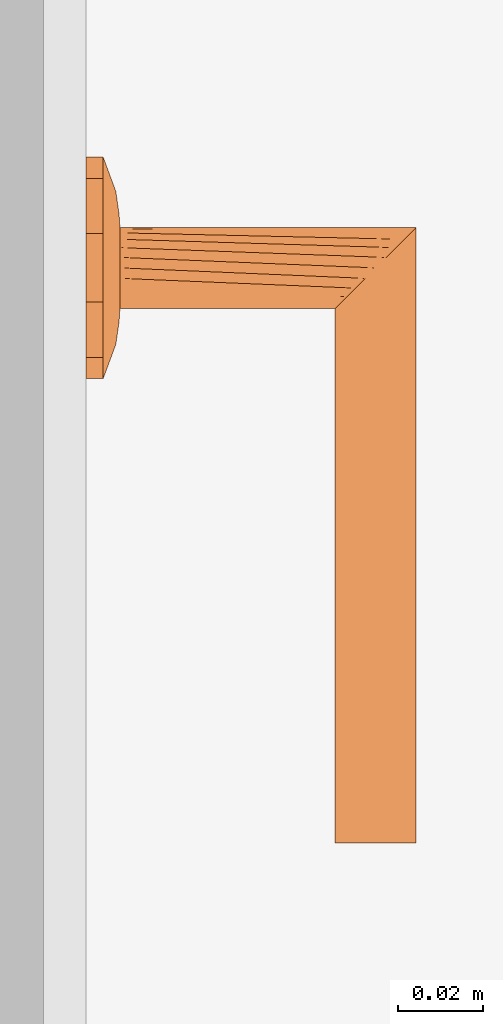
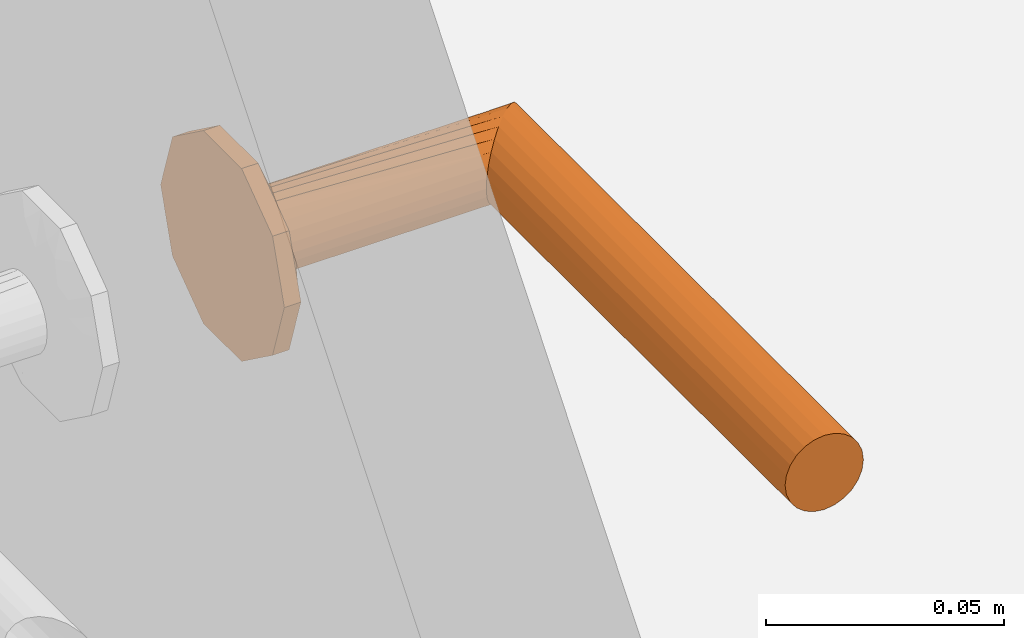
# One storey, part 118 of 125: 1 proxy.
"""IFC2X3 building model written with IfcOpenShell, lengths in millimetres."""

from ifc_helpers import new_model, entity, si_unit, converted_unit, direction, frame, origin, place, context, subcontext, project, spatial, faceted_brep, source, transform, mapped, material, type_object, type_shapes, element, save


model = new_model("IFC2X3")

# Units and contexts
model_context = context("Model", 3, precision=0.01, world=origin(), true_north=direction((6.123233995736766e-17, 1.0)))
plan_context = context("Plan", 3, precision=0.01, world=origin(), true_north=direction((6.123233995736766e-17, 1.0)))
body_context = subcontext(model_context, "Body", "Model", "MODEL_VIEW")
ifc_project = project(units=[si_unit("LENGTHUNIT", "METRE", prefix="MILLI"), converted_unit("PLANEANGLEUNIT", "DEGREE", entity("IfcPlaneAngleMeasure", 0.017453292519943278), si_unit("PLANEANGLEUNIT", "RADIAN"), dimensions=[0, 0, 0, 0, 0, 0, 0]), si_unit("AREAUNIT", "SQUARE_METRE")], contexts=[model_context, plan_context])

# Site, building, storey, space
site_placement = place(None, origin())
site = spatial("IfcSite", under=ifc_project, at=site_placement, Name="Default", CompositionType="ELEMENT")
building_placement = place(site_placement, origin())
building = spatial("IfcBuilding", under=site, at=building_placement, CompositionType="ELEMENT")
storey_placement = place(building_placement, frame((0.0, 0.0, 3125.0)))
storey = spatial("IfcBuildingStorey", under=building, at=storey_placement, Name="2K", CompositionType="ELEMENT", Elevation=3125.0)
space_placement = place(storey_placement, origin())
space = spatial("IfcSpace", under=storey, at=space_placement, Name="2-4.4", CompositionType="ELEMENT", InteriorOrExteriorSpace="INTERNAL")

# Proxy
ifc_material = material(Name="<Unnamed>")
building_element_proxy_type = type_object("IfcBuildingElementProxyType", Name="Door-handle_Lever_ABLOY_INOXI_3-19ss-002_RT:Default", PredefinedType="NOTDEFINED", material=ifc_material)
shared_shape = source(origin(), body_context, "Body", "Brep", [
    faceted_brep([(0.0, 0.0, 0.0), (21.034441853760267, -15.282416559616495, 0.0), (14.534441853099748, -20.00494299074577, 0.0), (8.034441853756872, -24.72746942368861, 0.0), (0.0, -24.72746942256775, 0.0), (23.51722092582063, -7.6412082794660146, 0.0), (26.0, 0.0, 0.0), (-8.034441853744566, -24.727469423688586, 0.0), (-14.534441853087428, -20.00494299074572, 0.0), (-21.03444185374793, -15.282416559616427, 0.0), (-23.517220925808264, -7.641208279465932, 0.0), (-26.0, 0.0, 0.0), (-23.517220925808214, 7.641208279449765, 0.0), (23.517220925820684, 7.641208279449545, 0.0), (21.034441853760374, 15.282416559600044, 0.0), (14.53444185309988, 20.00494299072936, 0.0), (8.034441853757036, 24.72746942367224, 0.0), (-21.034441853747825, 15.282416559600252, 0.0), (-14.53444185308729, 20.004942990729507, 0.0), (-8.0344418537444, 24.72746942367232, 0.0), (0.0, 24.72746942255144, 0.0), (0.0, 0.0, 8.0), (4.7500000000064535, -8.227241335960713, 8.0), (5.937500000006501, -6.170431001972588, 8.0), (7.125000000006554, -4.113620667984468, 8.0), (8.312500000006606, -2.0568103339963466, 8.0), (9.500000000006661, 0.0, 8.0), (8.312500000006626, 2.056810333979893, 8.0), (2.3750000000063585, -8.227241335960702, 8.0), (0.0, -8.227241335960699, 8.0), (-2.3749999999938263, -8.227241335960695, 8.0), (-4.749999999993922, -8.227241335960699, 8.0), (-5.937499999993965, -6.170431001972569, 8.0), (-7.124999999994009, -4.113620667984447, 8.0), (-8.312499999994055, -2.056810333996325, 8.0), (-9.499999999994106, 0.0, 8.0), (7.125000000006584, 4.113620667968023, 8.0), (5.937500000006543, 6.170431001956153, 8.0), (4.750000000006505, 8.227241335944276, 8.0), (2.3750000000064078, 8.22724133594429, 8.0), (-8.31249999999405, 2.0568103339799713, 8.0), (-7.12499999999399, 4.113620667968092, 8.0), (-5.9374999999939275, 6.170431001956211, 8.0), (-4.74999999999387, 8.227241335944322, 8.0), (0.0, 8.227241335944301, 8.0), (-2.374999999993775, 8.227241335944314, 8.0), (-22.488765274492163, -10.806469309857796, 4.030771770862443), (-16.663919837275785, -7.932665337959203, 6.877259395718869), (-20.643071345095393, -6.292822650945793, 5.929480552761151), (-12.50457926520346, -5.179566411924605, 7.774932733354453), (-16.764060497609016, -3.820257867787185, 7.1747985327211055), (-9.071726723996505, -10.311606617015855, 7.7520782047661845), (-11.963426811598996, -8.625290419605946, 7.618343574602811), (-11.979136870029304, -13.678312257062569, 6.945778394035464), (5.7585542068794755, -20.96753300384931, 5.871476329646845), (0.0, -24.72746942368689, 4.030771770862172), (8.03444185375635, -24.727469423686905, 4.030771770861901), (16.66391982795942, -7.932665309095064, 6.877259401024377), (22.488765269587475, -10.806469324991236, 4.03077177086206), (20.64307133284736, -6.29282258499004, 5.929480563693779), (14.534441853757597, -20.004942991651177, 4.030771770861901), (9.499431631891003, -18.64368355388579, 6.154325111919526), (-15.783149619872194, -11.991003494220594, 6.50080018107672), (-21.034441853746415, -15.282416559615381, 4.030771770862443), (-14.53444185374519, -20.00494299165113, 4.030771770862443), (-23.012042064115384, 0.0, 5.135401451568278), (-23.943088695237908, -6.330522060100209, 4.030771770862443), (11.96342678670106, -8.62529049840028, 7.618343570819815), (12.504579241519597, -5.179566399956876, 7.774932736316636), (16.764060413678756, -3.8202578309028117, 7.17479855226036), (15.783149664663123, -11.991003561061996, 6.50080015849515), (17.985351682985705, 0.0, 6.993737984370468), (23.012042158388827, 0.0, 5.135401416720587), (8.661516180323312, -10.478936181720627, 7.768126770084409), (-8.03444185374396, -24.727469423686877, 4.030771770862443), (-3.3573143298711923, -21.197247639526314, 5.971427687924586), (-9.941915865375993, -17.061976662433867, 6.522757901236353), (-5.973257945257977, -16.430139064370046, 7.110979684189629), (-7.711266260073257, -12.760344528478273, 7.594456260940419), (11.979136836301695, -13.678312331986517, 6.945778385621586), (7.511307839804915, -13.358932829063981, 7.529187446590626), (5.953298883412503, -16.50608604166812, 7.096344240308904), (-1.5654593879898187, -15.307443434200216, 7.519134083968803), (-7.784980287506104, -20.476295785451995, 5.812837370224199), (2.8135289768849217, -17.76392260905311, 6.993737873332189), (-17.98535168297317, 0.0, 6.993737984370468), (-26.0, 0.0, 4.030771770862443), (-23.51722092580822, -7.641208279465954, 4.030771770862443), (23.943088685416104, -6.33052209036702, 4.030771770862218), (24.308823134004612, -5.204907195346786, 4.030771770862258), (26.0, 0.0, 4.030771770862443), (21.03444185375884, -15.282416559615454, 4.030771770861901), (22.617646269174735, -10.40981439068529, 4.030771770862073), (22.488765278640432, 10.806469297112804, 4.030771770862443), (16.66391984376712, 7.932665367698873, 6.877259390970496), (20.643071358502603, 6.292822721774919, 5.929480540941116), (12.504579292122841, 5.179566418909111, 7.774932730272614), (16.764060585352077, 3.8202579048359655, 7.174798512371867), (9.07172672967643, 10.31160659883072, 7.752078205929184), (11.963426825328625, 8.62529034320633, 7.618343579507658), (11.979136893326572, 13.67831220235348, 6.9457784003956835), (-5.758554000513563, 20.96753314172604, 5.8714763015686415), (0.0, 24.72746942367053, 4.030771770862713), (-8.03444185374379, 24.72746942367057, 4.030771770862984), (-16.663919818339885, 7.932665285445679, 6.877259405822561), (-22.48876526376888, 10.806469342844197, 4.030771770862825), (-20.643071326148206, 6.2928225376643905, 5.929480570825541), (-14.534441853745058, 20.004942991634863, 4.030771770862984), (-9.499431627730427, 18.643683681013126, 6.154325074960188), (15.783149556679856, 11.991003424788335, 6.5008002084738), (21.03444185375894, 15.282416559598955, 4.030771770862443), (14.534441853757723, 20.004942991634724, 4.030771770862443), (23.943088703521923, 6.330522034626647, 4.030771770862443), (-11.96342675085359, 8.625290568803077, 7.618343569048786), (-12.504579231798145, 5.179566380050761, 7.77493273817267), (-16.764060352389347, 3.820257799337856, 7.174798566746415), (-15.78314967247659, 11.991003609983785, 6.500800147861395), (-8.661516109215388, 10.478936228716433, 7.768126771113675), (8.034441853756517, 24.727469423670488, 4.030771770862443), (3.3573144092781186, 21.197247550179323, 5.971427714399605), (9.941915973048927, 17.061976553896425, 6.522757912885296), (5.9732581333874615, 16.430139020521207, 7.110979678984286), (7.711266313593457, 12.760344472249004, 7.5944562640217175), (-11.979136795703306, 13.678312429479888, 6.945778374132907), (-7.511307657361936, 13.358932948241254, 7.5291874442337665), (-5.9532988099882, 16.50608628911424, 7.096344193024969), (1.5654596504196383, 15.3074431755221, 7.519134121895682), (7.784980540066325, 20.476295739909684, 5.812837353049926), (-2.81352881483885, 17.76392263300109, 6.993737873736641), (23.51722092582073, 7.6412082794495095, 4.030771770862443), (-23.94308867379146, 6.330522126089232, 4.030771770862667), (-24.308823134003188, 5.20490719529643, 4.030771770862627), (-21.034441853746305, 15.282416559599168, 4.030771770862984), (-22.617646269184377, 10.409814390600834, 4.0307717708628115)], [[[0, 1, 2]], [[0, 2, 3]], [[0, 3, 4]], [[0, 5, 1]], [[0, 6, 5]], [[0, 4, 7]], [[0, 7, 8]], [[0, 8, 9]], [[0, 9, 10]], [[0, 10, 11]], [[0, 11, 12]], [[0, 13, 6]], [[0, 14, 13]], [[0, 15, 14]], [[0, 16, 15]], [[0, 12, 17]], [[0, 17, 18]], [[0, 18, 19]], [[0, 19, 20]], [[0, 20, 16]], [[21, 22, 23]], [[21, 23, 24]], [[21, 24, 25]], [[21, 25, 26]], [[21, 26, 27]], [[21, 28, 22]], [[21, 29, 28]], [[21, 30, 29]], [[21, 31, 30]], [[21, 32, 31]], [[21, 33, 32]], [[21, 34, 33]], [[21, 35, 34]], [[21, 27, 36]], [[21, 36, 37]], [[21, 37, 38]], [[21, 38, 39]], [[21, 40, 35]], [[21, 41, 40]], [[21, 42, 41]], [[21, 43, 42]], [[21, 39, 44]], [[21, 44, 45]], [[21, 45, 43]], [[46, 47, 48]], [[47, 49, 50]], [[49, 33, 34]], [[51, 52, 53]], [[49, 52, 33]], [[48, 47, 50]], [[54, 55, 56]], [[57, 58, 59]], [[56, 60, 61]], [[62, 63, 64]], [[65, 66, 48]], [[67, 57, 68]], [[68, 69, 25]], [[57, 67, 70]], [[69, 26, 25]], [[62, 53, 52]], [[71, 69, 72]], [[67, 23, 73]], [[74, 55, 75]], [[76, 77, 78]], [[79, 60, 70]], [[69, 59, 72]], [[80, 81, 61]], [[77, 30, 78]], [[82, 30, 77]], [[28, 80, 22]], [[77, 83, 75]], [[75, 82, 77]], [[55, 84, 75]], [[85, 50, 35]], [[24, 68, 25]], [[82, 84, 29]], [[84, 82, 75]], [[31, 78, 30]], [[82, 29, 30]], [[34, 35, 50]], [[52, 49, 47]], [[62, 52, 47]], [[34, 50, 49]], [[53, 78, 51]], [[32, 33, 52]], [[85, 65, 50]], [[66, 65, 86]], [[67, 68, 24]], [[77, 76, 83]], [[65, 48, 50]], [[63, 62, 46]], [[48, 66, 87, 46]], [[62, 47, 46]], [[69, 68, 57]], [[80, 73, 22]], [[70, 67, 79]], [[67, 24, 23]], [[72, 88, 89, 90]], [[69, 71, 26]], [[59, 69, 57]], [[61, 60, 79]], [[62, 64, 53]], [[91, 58, 70]], [[72, 59, 88]], [[57, 70, 58]], [[59, 58, 92]], [[80, 61, 79]], [[91, 70, 60]], [[61, 81, 54]], [[73, 80, 79]], [[28, 84, 81]], [[67, 73, 79]], [[29, 84, 28]], [[22, 73, 23]], [[51, 31, 32]], [[76, 78, 53]], [[53, 64, 76]], [[83, 64, 74]], [[64, 83, 76]], [[75, 83, 74]], [[31, 51, 78]], [[52, 51, 32]], [[28, 81, 80]], [[54, 81, 84]], [[55, 54, 84]], [[61, 54, 56]], [[93, 94, 95]], [[94, 96, 97]], [[96, 36, 27]], [[98, 99, 100]], [[96, 99, 36]], [[95, 94, 97]], [[101, 102, 103]], [[104, 105, 106]], [[103, 107, 108]], [[109, 110, 111]], [[72, 112, 95]], [[113, 104, 114]], [[114, 115, 40]], [[104, 113, 116]], [[115, 35, 40]], [[109, 100, 99]], [[85, 115, 65]], [[113, 42, 117]], [[118, 102, 119]], [[120, 121, 122]], [[123, 107, 116]], [[115, 106, 65]], [[124, 125, 108]], [[121, 39, 122]], [[126, 39, 121]], [[45, 124, 43]], [[121, 127, 119]], [[119, 126, 121]], [[102, 128, 119]], [[71, 97, 26]], [[41, 114, 40]], [[126, 128, 44]], [[128, 126, 119]], [[38, 122, 39]], [[126, 44, 39]], [[27, 26, 97]], [[99, 96, 94]], [[109, 99, 94]], [[27, 97, 96]], [[100, 122, 98]], [[37, 36, 99]], [[71, 72, 97]], [[112, 72, 90]], [[113, 114, 41]], [[121, 120, 127]], [[72, 95, 97]], [[110, 109, 93]], [[95, 112, 129, 93]], [[109, 94, 93]], [[115, 114, 104]], [[124, 117, 43]], [[116, 113, 123]], [[113, 41, 42]], [[65, 130, 131, 86]], [[115, 85, 35]], [[106, 115, 104]], [[108, 107, 123]], [[109, 111, 100]], [[132, 105, 116]], [[65, 106, 130]], [[104, 116, 105]], [[106, 105, 133]], [[124, 108, 123]], [[132, 116, 107]], [[108, 125, 101]], [[117, 124, 123]], [[45, 128, 125]], [[113, 117, 123]], [[44, 128, 45]], [[43, 117, 42]], [[98, 38, 37]], [[120, 122, 100]], [[100, 111, 120]], [[127, 111, 118]], [[111, 127, 120]], [[119, 127, 118]], [[38, 98, 122]], [[99, 98, 37]], [[45, 125, 124]], [[101, 125, 128]], [[102, 101, 128]], [[108, 101, 103]], [[7, 74, 64, 63, 9, 8]], [[10, 9, 63, 46, 87, 66, 86, 11]], [[6, 90, 89, 88, 92, 1, 5]], [[1, 58, 91]], [[74, 7, 4, 3, 56, 55]], [[60, 56, 3, 2, 1, 91]], [[1, 92, 58]], [[14, 110, 93, 129, 112, 90, 6, 13]], [[111, 110, 14, 15, 16, 118]], [[11, 86, 131, 130, 133, 17, 12]], [[17, 105, 132]], [[118, 16, 20, 19, 103, 102]], [[107, 103, 19, 18, 17, 132]], [[17, 133, 105]], [[59, 92, 88]], [[106, 133, 130]]]),
    faceted_brep([(4.7499999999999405, -8.22724133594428, 8.0), (2.4587809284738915, -9.176295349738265, 8.0), (0.0, -9.499999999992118, 8.0), (-2.4587809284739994, -9.176295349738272, 8.0), (-4.7500000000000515, -8.227241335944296, 8.0), (-6.717514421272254, -6.717514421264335, 8.0), (-8.227241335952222, -4.74999999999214, 8.0), (-9.176295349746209, -2.4587809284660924, 8.0), (-9.500000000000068, 0.0, 8.0), (-9.176295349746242, 2.458780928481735, 8.0), (-8.227241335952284, 4.750000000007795, 8.0), (-6.717514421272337, 6.717514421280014, 8.0), (-4.750000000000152, 8.227241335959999, 8.0), (-2.4587809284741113, 9.176295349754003, 8.0), (0.0, 9.500000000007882, 8.0), (2.4587809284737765, 9.176295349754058, 8.0), (4.7499999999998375, 8.227241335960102, 8.0), (6.717514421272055, 6.717514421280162, 8.0), (8.22724133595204, 4.75000000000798, 8.0), (9.17629534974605, 2.458780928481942, 8.0), (9.499999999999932, 0.0, 8.0), (9.17629534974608, -2.458780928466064, 8.0), (8.227241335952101, -4.749999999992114, 8.0), (6.717514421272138, -6.7175144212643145, 8.0), (-8.227241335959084, 4.7499999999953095, 59.772758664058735), (-6.717514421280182, 6.7175144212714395, 61.282485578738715), (-9.176295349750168, 2.458780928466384, 58.82370465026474), (-4.750000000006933, 8.227241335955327, 63.25000000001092), (-2.4587809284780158, 9.176295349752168, 65.54121907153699), (-9.500000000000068, 0.0, 58.50000000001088), (0.0, 9.50000000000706, 68.0), (4.750000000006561, 8.227241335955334, 72.75000000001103), (2.4587809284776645, 9.17629534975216, 70.45878092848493), (6.717514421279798, 6.7175144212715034, 74.71751442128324), (8.22724133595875, 4.749999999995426, 76.22724133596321), (9.17629534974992, 2.458780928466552, 77.17629534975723), (9.499999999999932, 0.0, 77.50000000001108), (9.176295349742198, -2.4587809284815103, 77.1762953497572), (8.227241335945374, -4.750000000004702, 76.22724133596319), (6.7175144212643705, -6.717514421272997, 74.7175144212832), (4.749999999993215, -8.227241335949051, 72.75000000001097), (2.4587809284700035, -9.17629534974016, 70.45878092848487), (0.0, -9.49999999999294, 68.0), (-2.4587809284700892, -9.176295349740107, 65.54121907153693), (-4.749999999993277, -8.227241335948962, 63.250000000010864), (-6.717514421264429, -6.717514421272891, 61.282485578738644), (-9.176295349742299, -2.458780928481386, 58.8237046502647), (-8.227241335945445, -4.750000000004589, 59.77275866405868), (-135.0, -9.176295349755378, 70.4587809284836), (-135.0, -8.227241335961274, 72.75000000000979), (-135.0, -6.717514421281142, 74.71751442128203), (-135.0, -4.750000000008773, 76.22724133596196), (-135.0, -2.4587809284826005, 77.17629534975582), (-135.0, 0.0, 77.5000000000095), (-135.0, 2.4587809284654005, 77.17629534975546), (-135.0, 4.749999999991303, 76.22724133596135), (-135.0, 6.717514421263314, 74.71751442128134), (-135.0, 8.227241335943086, 72.75000000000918), (-135.0, 9.17629534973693, 70.45878092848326), (-135.0, 9.499999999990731, 68.0), (-135.0, 9.17629534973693, 65.54121907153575), (-135.0, 8.227241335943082, 63.250000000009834), (-135.0, 6.717514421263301, 61.28248557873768), (-135.0, 4.749999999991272, 59.772758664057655), (-135.0, 2.458780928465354, 58.823704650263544), (-135.0, 0.0, 58.50000000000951), (-135.0, -2.458780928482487, 58.82370465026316), (-135.0, -4.750000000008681, 59.772758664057), (-135.0, -6.7175144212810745, 61.28248557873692), (-135.0, -8.227241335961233, 63.25000000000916), (-135.0, -9.176295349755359, 65.54121907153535), (-135.0, -9.500000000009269, 68.0)], [[[0, 1, 2, 3, 4, 5, 6, 7, 8, 9, 10, 11, 12, 13, 14, 15, 16, 17, 18, 19, 20, 21, 22, 23]], [[24, 25, 11, 10]], [[26, 24, 10, 9]], [[14, 27, 28]], [[13, 27, 14]], [[25, 27, 13]], [[29, 26, 9, 8]], [[12, 11, 25]], [[25, 13, 12]], [[28, 30, 15]], [[31, 17, 32]], [[33, 18, 31]], [[19, 34, 35]], [[33, 34, 19]], [[20, 19, 35, 36]], [[16, 15, 30]], [[14, 28, 15]], [[19, 18, 33]], [[17, 31, 18]], [[17, 16, 32]], [[30, 32, 16]], [[20, 36, 37, 21]], [[38, 21, 37]], [[22, 39, 40]], [[38, 39, 21]], [[23, 40, 41]], [[39, 22, 21]], [[1, 42, 43]], [[42, 1, 0]], [[23, 41, 0]], [[23, 22, 40]], [[41, 42, 0]], [[44, 45, 3]], [[43, 44, 2]], [[46, 29, 8, 7]], [[47, 46, 7, 6]], [[45, 47, 6, 5]], [[45, 4, 3]], [[3, 2, 44]], [[5, 4, 45]], [[43, 2, 1]], [[48, 49, 50, 51, 52, 53, 54, 55, 56, 57, 58, 59, 60, 61, 62, 63, 64, 65, 66, 67, 68, 69, 70, 71]], [[64, 63, 24, 26]], [[65, 64, 26, 29]], [[61, 60, 28, 27]], [[62, 61, 27, 25]], [[63, 62, 25, 24]], [[59, 30, 28, 60]], [[57, 56, 33, 31]], [[58, 57, 31, 32]], [[54, 53, 36, 35]], [[55, 54, 35, 34]], [[56, 55, 34, 33]], [[32, 30, 59, 58]], [[52, 51, 38, 37]], [[53, 52, 37, 36]], [[49, 48, 41, 40]], [[50, 49, 40, 39]], [[51, 50, 39, 38]], [[42, 41, 48, 71]], [[69, 68, 45, 44]], [[70, 69, 44, 43]], [[66, 65, 29, 46]], [[67, 66, 46, 47]], [[68, 67, 47, 45]], [[42, 71, 70, 43]]]),
])
type_shapes(building_element_proxy_type, [shared_shape])
proxy_placement = place(space_placement, frame((13590.0, 5052.0, 1000.0), z_axis=(1.0, 0.0, 0.0), x_axis=(0.0, 1.0, 0.0)))
element("IfcBuildingElementProxy", 1, at=proxy_placement, inside=space, type_object=building_element_proxy_type, material=ifc_material, Name="Door-handle_Lever_ABLOY_INOXI_3-19ss-002_RT:Default", ObjectType="Door-handle_Lever_ABLOY_INOXI_3-19ss-002_RT:Default", context=body_context, shape_type="MappedRepresentation", body=[
    mapped(shared_shape, transform((0.0, 0.0, 0.0), scale=1.0)),
])

save(model, "model.ifc")
